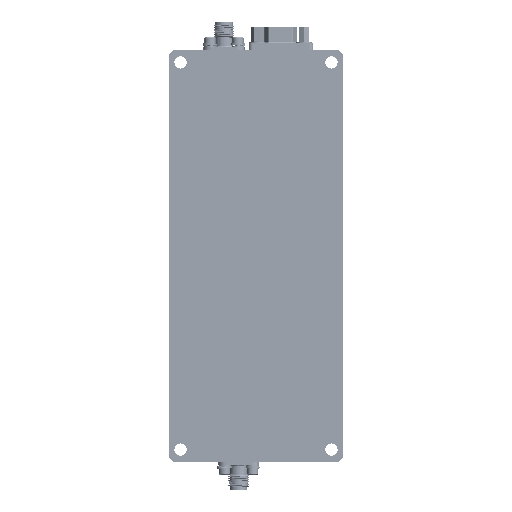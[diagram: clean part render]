
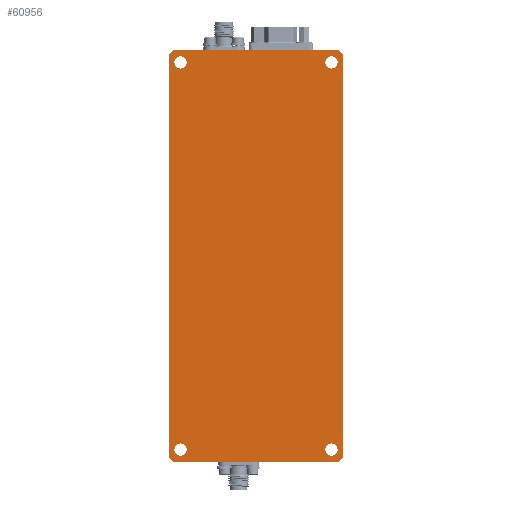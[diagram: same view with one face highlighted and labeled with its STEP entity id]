
A CAD part, front view. The second image highlights one B-rep face of the part: STEP entity #60956.
In plain terms, the highlighted planar face has unit normal (0, -1, 0).
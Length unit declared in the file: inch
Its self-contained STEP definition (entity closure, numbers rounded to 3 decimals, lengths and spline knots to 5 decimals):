
#1565 = EDGE_LOOP ( 'NONE', ( #35267, #70511 ) ) ;
#2073 = EDGE_CURVE ( 'NONE', #3920, #151782, #108966, .T. ) ;
#2562 = EDGE_CURVE ( 'NONE', #46963, #41900, #58091, .T. ) ;
#2933 = EDGE_LOOP ( 'NONE', ( #148994, #88146 ) ) ;
#3920 = VERTEX_POINT ( 'NONE', #14941 ) ;
#4444 = DIRECTION ( 'NONE',  ( 0., 0., 1. ) ) ;
#5199 = VECTOR ( 'NONE', #93658, 39.37008 ) ;
#8992 = CIRCLE ( 'NONE', #132980, 0.07475 ) ;
#9603 = DIRECTION ( 'NONE',  ( 0., 0., 1. ) ) ;
#9646 = AXIS2_PLACEMENT_3D ( 'NONE', #22211, #120877, #156363 ) ;
#9919 = CARTESIAN_POINT ( 'NONE',  ( 0.23563, 0., -1.26781 ) ) ;
#10164 = VERTEX_POINT ( 'NONE', #9919 ) ;
#10750 = AXIS2_PLACEMENT_3D ( 'NONE', #154244, #120383, #117978 ) ;
#11263 = VERTEX_POINT ( 'NONE', #76693 ) ;
#11553 = DIRECTION ( 'NONE',  ( 0., 0., 1. ) ) ;
#12347 = CARTESIAN_POINT ( 'NONE',  ( -1.59937, 0., 3.44219 ) ) ;
#12773 = FACE_BOUND ( 'NONE', #135464, .T. ) ;
#14941 = CARTESIAN_POINT ( 'NONE',  ( -1.74437, 0., -1.43756 ) ) ;
#15462 = EDGE_CURVE ( 'NONE', #63342, #149123, #96803, .T. ) ;
#15476 = VERTEX_POINT ( 'NONE', #23291 ) ;
#16245 = ORIENTED_EDGE ( 'NONE', *, *, #159419, .T. ) ;
#18575 = LINE ( 'NONE', #19409, #20876 ) ;
#19409 = CARTESIAN_POINT ( 'NONE',  ( -1.74437, 0., -1.43756 ) ) ;
#20876 = VECTOR ( 'NONE', #142241, 39.37008 ) ;
#21149 = EDGE_LOOP ( 'NONE', ( #22538, #67214 ) ) ;
#21263 = VECTOR ( 'NONE', #47538, 39.37008 ) ;
#21550 = VECTOR ( 'NONE', #21818, 39.37008 ) ;
#21634 = CARTESIAN_POINT ( 'NONE',  ( -1.74437, 0., -1.48756 ) ) ;
#21818 = DIRECTION ( 'NONE',  ( -0.707, 0., -0.707 ) ) ;
#22211 = CARTESIAN_POINT ( 'NONE',  ( -1.59937, 0., 3.36744 ) ) ;
#22538 = ORIENTED_EDGE ( 'NONE', *, *, #141424, .T. ) ;
#23291 = CARTESIAN_POINT ( 'NONE',  ( -1.69437, 0., 3.51244 ) ) ;
#23675 = CARTESIAN_POINT ( 'NONE',  ( 0.33063, 0., -1.48756 ) ) ;
#26090 = EDGE_LOOP ( 'NONE', ( #34094, #53507, #126658, #136490, #132090, #65438, #133440, #16245 ) ) ;
#27945 = CARTESIAN_POINT ( 'NONE',  ( 0.38063, 0., 3.46244 ) ) ;
#28868 = DIRECTION ( 'NONE',  ( 0., 1., 0. ) ) ;
#29188 = CARTESIAN_POINT ( 'NONE',  ( -1.74437, 0., -1.48756 ) ) ;
#32019 = ORIENTED_EDGE ( 'NONE', *, *, #138770, .T. ) ;
#34094 = ORIENTED_EDGE ( 'NONE', *, *, #105741, .F. ) ;
#35267 = ORIENTED_EDGE ( 'NONE', *, *, #53207, .T. ) ;
#35551 = FACE_BOUND ( 'NONE', #2933, .T. ) ;
#36461 = CIRCLE ( 'NONE', #131954, 0.07475 ) ;
#41835 = DIRECTION ( 'NONE',  ( 0., 0., 1. ) ) ;
#41900 = VERTEX_POINT ( 'NONE', #144259 ) ;
#44845 = CARTESIAN_POINT ( 'NONE',  ( -1.59937, 0., 3.29269 ) ) ;
#46963 = VERTEX_POINT ( 'NONE', #134547 ) ;
#47465 = CARTESIAN_POINT ( 'NONE',  ( -1.59937, 0., -1.34256 ) ) ;
#47538 = DIRECTION ( 'NONE',  ( 0., 0., 1. ) ) ;
#48687 = CARTESIAN_POINT ( 'NONE',  ( -1.74437, 0., 3.51244 ) ) ;
#52474 = CARTESIAN_POINT ( 'NONE',  ( -1.59937, 0., -1.26781 ) ) ;
#53207 = EDGE_CURVE ( 'NONE', #65800, #84035, #141212, .T. ) ;
#53507 = ORIENTED_EDGE ( 'NONE', *, *, #134108, .T. ) ;
#54627 = DIRECTION ( 'NONE',  ( -0.707, 0., 0.707 ) ) ;
#54795 = DIRECTION ( 'NONE',  ( 0., 1., 0. ) ) ;
#55695 = CARTESIAN_POINT ( 'NONE',  ( 0.38063, 0., -1.48756 ) ) ;
#56495 = DIRECTION ( 'NONE',  ( 0., 0., -1. ) ) ;
#58091 = LINE ( 'NONE', #55695, #83923 ) ;
#60935 = LINE ( 'NONE', #23675, #107579 ) ;
#60956 = ADVANCED_FACE ( 'NONE', ( #12773, #98591, #35551, #83361, #97785 ), #84166, .F. ) ;
#61382 = EDGE_CURVE ( 'NONE', #11263, #10164, #36461, .T. ) ;
#63342 = VERTEX_POINT ( 'NONE', #123468 ) ;
#65438 = ORIENTED_EDGE ( 'NONE', *, *, #130835, .T. ) ;
#65552 = EDGE_CURVE ( 'NONE', #84035, #65800, #78488, .T. ) ;
#65800 = VERTEX_POINT ( 'NONE', #12347 ) ;
#66775 = LINE ( 'NONE', #27945, #107661 ) ;
#66804 = CARTESIAN_POINT ( 'NONE',  ( 0.23563, 0., -1.34256 ) ) ;
#67214 = ORIENTED_EDGE ( 'NONE', *, *, #61382, .T. ) ;
#67724 = EDGE_CURVE ( 'NONE', #88968, #126850, #8992, .T. ) ;
#69004 = EDGE_CURVE ( 'NONE', #46963, #118075, #66775, .T. ) ;
#70511 = ORIENTED_EDGE ( 'NONE', *, *, #65552, .T. ) ;
#71577 = CARTESIAN_POINT ( 'NONE',  ( 0.23563, 0., 3.44219 ) ) ;
#71773 = DIRECTION ( 'NONE',  ( 0., 1., 0. ) ) ;
#72687 = CARTESIAN_POINT ( 'NONE',  ( 0.33063, 0., 3.51244 ) ) ;
#73344 = DIRECTION ( 'NONE',  ( 0., 0., 1. ) ) ;
#76693 = CARTESIAN_POINT ( 'NONE',  ( 0.23563, 0., -1.41731 ) ) ;
#76827 = CARTESIAN_POINT ( 'NONE',  ( -1.69437, 0., -1.48756 ) ) ;
#78488 = CIRCLE ( 'NONE', #86243, 0.07475 ) ;
#78998 = AXIS2_PLACEMENT_3D ( 'NONE', #153288, #54795, #41835 ) ;
#80369 = AXIS2_PLACEMENT_3D ( 'NONE', #133318, #122004, #9603 ) ;
#83361 = FACE_BOUND ( 'NONE', #1565, .T. ) ;
#83923 = VECTOR ( 'NONE', #56495, 39.37008 ) ;
#84035 = VERTEX_POINT ( 'NONE', #44845 ) ;
#84166 = PLANE ( 'NONE',  #80369 ) ;
#84330 = ORIENTED_EDGE ( 'NONE', *, *, #67724, .T. ) ;
#84848 = DIRECTION ( 'NONE',  ( 0., 1., 0. ) ) ;
#85152 = LINE ( 'NONE', #48687, #112591 ) ;
#86243 = AXIS2_PLACEMENT_3D ( 'NONE', #111894, #136872, #11553 ) ;
#86465 = AXIS2_PLACEMENT_3D ( 'NONE', #122705, #84848, #134800 ) ;
#88146 = ORIENTED_EDGE ( 'NONE', *, *, #15462, .T. ) ;
#88968 = VERTEX_POINT ( 'NONE', #52474 ) ;
#90337 = CARTESIAN_POINT ( 'NONE',  ( 0.33063, 0., -1.48756 ) ) ;
#90683 = LINE ( 'NONE', #29188, #5199 ) ;
#91308 = EDGE_CURVE ( 'NONE', #15476, #118075, #85152, .T. ) ;
#93658 = DIRECTION ( 'NONE',  ( -1., 0., 0. ) ) ;
#96803 = CIRCLE ( 'NONE', #86465, 0.07475 ) ;
#97785 = FACE_OUTER_BOUND ( 'NONE', #26090, .T. ) ;
#98591 = FACE_BOUND ( 'NONE', #21149, .T. ) ;
#99607 = CIRCLE ( 'NONE', #78998, 0.07475 ) ;
#105741 = EDGE_CURVE ( 'NONE', #151358, #146527, #90683, .T. ) ;
#106786 = CARTESIAN_POINT ( 'NONE',  ( -1.69437, 0., 3.51244 ) ) ;
#107579 = VECTOR ( 'NONE', #109412, 39.37008 ) ;
#107661 = VECTOR ( 'NONE', #54627, 39.37008 ) ;
#108966 = LINE ( 'NONE', #21634, #21263 ) ;
#109412 = DIRECTION ( 'NONE',  ( 0.707, 0., 0.707 ) ) ;
#111007 = AXIS2_PLACEMENT_3D ( 'NONE', #47465, #71773, #73344 ) ;
#111894 = CARTESIAN_POINT ( 'NONE',  ( -1.59937, 0., 3.36744 ) ) ;
#112591 = VECTOR ( 'NONE', #119068, 39.37008 ) ;
#113631 = CIRCLE ( 'NONE', #111007, 0.07475 ) ;
#114966 = CARTESIAN_POINT ( 'NONE',  ( -1.59937, 0., -1.41731 ) ) ;
#116097 = DIRECTION ( 'NONE',  ( 0., 1., 0. ) ) ;
#117978 = DIRECTION ( 'NONE',  ( 0., 0., 1. ) ) ;
#118075 = VERTEX_POINT ( 'NONE', #72687 ) ;
#119068 = DIRECTION ( 'NONE',  ( 1., 0., 0. ) ) ;
#120383 = DIRECTION ( 'NONE',  ( 0., 1., 0. ) ) ;
#120877 = DIRECTION ( 'NONE',  ( 0., 1., 0. ) ) ;
#122004 = DIRECTION ( 'NONE',  ( 0., 1., 0. ) ) ;
#122705 = CARTESIAN_POINT ( 'NONE',  ( 0.23563, 0., 3.36744 ) ) ;
#123468 = CARTESIAN_POINT ( 'NONE',  ( 0.23563, 0., 3.29269 ) ) ;
#126658 = ORIENTED_EDGE ( 'NONE', *, *, #2562, .F. ) ;
#126850 = VERTEX_POINT ( 'NONE', #114966 ) ;
#127645 = CARTESIAN_POINT ( 'NONE',  ( -1.74437, 0., 3.46244 ) ) ;
#130835 = EDGE_CURVE ( 'NONE', #15476, #151782, #146240, .T. ) ;
#131954 = AXIS2_PLACEMENT_3D ( 'NONE', #66804, #116097, #4444 ) ;
#132090 = ORIENTED_EDGE ( 'NONE', *, *, #91308, .F. ) ;
#132980 = AXIS2_PLACEMENT_3D ( 'NONE', #137973, #28868, #151630 ) ;
#133318 = CARTESIAN_POINT ( 'NONE',  ( 0., 0., 0. ) ) ;
#133440 = ORIENTED_EDGE ( 'NONE', *, *, #2073, .F. ) ;
#134108 = EDGE_CURVE ( 'NONE', #151358, #41900, #60935, .T. ) ;
#134547 = CARTESIAN_POINT ( 'NONE',  ( 0.38063, 0., 3.46244 ) ) ;
#134800 = DIRECTION ( 'NONE',  ( 0., 0., 1. ) ) ;
#135464 = EDGE_LOOP ( 'NONE', ( #84330, #32019 ) ) ;
#136490 = ORIENTED_EDGE ( 'NONE', *, *, #69004, .T. ) ;
#136872 = DIRECTION ( 'NONE',  ( 0., 1., 0. ) ) ;
#137973 = CARTESIAN_POINT ( 'NONE',  ( -1.59937, 0., -1.34256 ) ) ;
#138770 = EDGE_CURVE ( 'NONE', #126850, #88968, #113631, .T. ) ;
#141212 = CIRCLE ( 'NONE', #9646, 0.07475 ) ;
#141424 = EDGE_CURVE ( 'NONE', #10164, #11263, #147527, .T. ) ;
#142241 = DIRECTION ( 'NONE',  ( 0.707, 0., -0.707 ) ) ;
#144259 = CARTESIAN_POINT ( 'NONE',  ( 0.38063, 0., -1.43756 ) ) ;
#146240 = LINE ( 'NONE', #106786, #21550 ) ;
#146527 = VERTEX_POINT ( 'NONE', #76827 ) ;
#147049 = EDGE_CURVE ( 'NONE', #149123, #63342, #99607, .T. ) ;
#147527 = CIRCLE ( 'NONE', #10750, 0.07475 ) ;
#148994 = ORIENTED_EDGE ( 'NONE', *, *, #147049, .T. ) ;
#149123 = VERTEX_POINT ( 'NONE', #71577 ) ;
#151358 = VERTEX_POINT ( 'NONE', #90337 ) ;
#151630 = DIRECTION ( 'NONE',  ( 0., 0., 1. ) ) ;
#151782 = VERTEX_POINT ( 'NONE', #127645 ) ;
#153288 = CARTESIAN_POINT ( 'NONE',  ( 0.23563, 0., 3.36744 ) ) ;
#154244 = CARTESIAN_POINT ( 'NONE',  ( 0.23563, 0., -1.34256 ) ) ;
#156363 = DIRECTION ( 'NONE',  ( 0., 0., 1. ) ) ;
#159419 = EDGE_CURVE ( 'NONE', #3920, #146527, #18575, .T. ) ;
